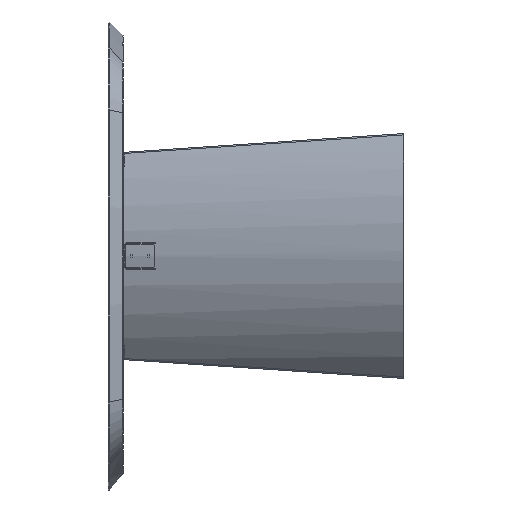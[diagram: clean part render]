
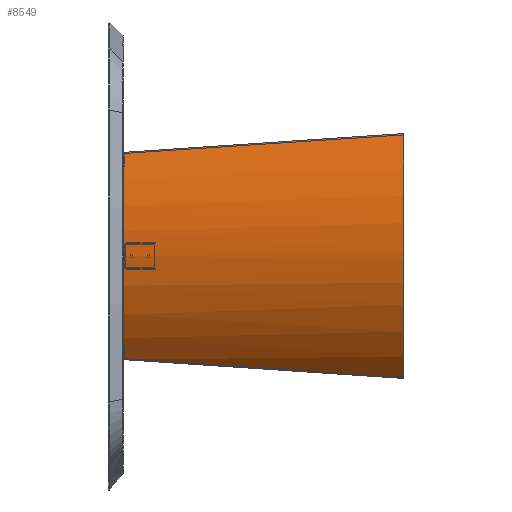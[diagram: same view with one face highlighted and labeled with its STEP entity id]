
A CAD part, left-side view. The second image highlights one B-rep face of the part: STEP entity #8549.
In plain terms, the highlighted cylindrical face has radius 455 mm (diameter 910 mm), a partial arc.
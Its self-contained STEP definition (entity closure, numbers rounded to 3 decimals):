
#78 = CARTESIAN_POINT ( 'NONE',  ( -12.104, 1.251, -0.325 ) ) ;
#206 = CARTESIAN_POINT ( 'NONE',  ( 0., 720., -186.04 ) ) ;
#257 = CARTESIAN_POINT ( 'NONE',  ( -96.167, 720., -186.04 ) ) ;
#564 = ORIENTED_EDGE ( 'NONE', *, *, #6283, .F. ) ;
#707 = VERTEX_POINT ( 'NONE', #3535 ) ;
#798 = CARTESIAN_POINT ( 'NONE',  ( 265.753, 720., -274.535 ) ) ;
#810 = CARTESIAN_POINT ( 'NONE',  ( -282.752, 482.074, -225.637 ) ) ;
#840 = EDGE_CURVE ( 'NONE', #6591, #1855, #6049, .T. ) ;
#903 = CARTESIAN_POINT ( 'NONE',  ( -265.753, 720., -274.535 ) ) ;
#1211 = CARTESIAN_POINT ( 'NONE',  ( 265.753, 720., -274.535 ) ) ;
#1283 = CYLINDRICAL_SURFACE ( 'NONE', #5102, 455. ) ;
#1468 = EDGE_CURVE ( 'NONE', #707, #4583, #2307, .T. ) ;
#1802 = ORIENTED_EDGE ( 'NONE', *, *, #1468, .F. ) ;
#1855 = VERTEX_POINT ( 'NONE', #798 ) ;
#2129 = CARTESIAN_POINT ( 'NONE',  ( 314.022, 0.906, -129.942 ) ) ;
#2233 = CARTESIAN_POINT ( 'NONE',  ( 12.104, 1.251, -0.325 ) ) ;
#2307 =( BOUNDED_CURVE ( )  B_SPLINE_CURVE ( 3, ( #10712, #4873, #810, #8237 ),
 .UNSPECIFIED., .F., .F. ) 
 B_SPLINE_CURVE_WITH_KNOTS ( ( 4, 4 ),
 ( 1.582, 1.719 ),
 .UNSPECIFIED. ) 
 CURVE ( )  GEOMETRIC_REPRESENTATION_ITEM ( )  RATIONAL_B_SPLINE_CURVE ( ( 1., 0.998, 0.998, 1. ) ) 
 REPRESENTATION_ITEM ( '' )  );
#2489 = ORIENTED_EDGE ( 'NONE', *, *, #840, .T. ) ;
#2643 = DIRECTION ( 'NONE',  ( -1., 0., 0. ) ) ;
#2980 = ORIENTED_EDGE ( 'NONE', *, *, #3343, .T. ) ;
#3133 = CARTESIAN_POINT ( 'NONE',  ( 265.753, 720., -274.535 ) ) ;
#3174 = CARTESIAN_POINT ( 'NONE',  ( 126.14, 1.243, -3.458 ) ) ;
#3260 = ORIENTED_EDGE ( 'NONE', *, *, #7971, .T. ) ;
#3343 = EDGE_CURVE ( 'NONE', #4046, #4583, #5265, .T. ) ;
#3535 = CARTESIAN_POINT ( 'NONE',  ( -314.022, 0.906, -129.942 ) ) ;
#3608 = CARTESIAN_POINT ( 'NONE',  ( -187.694, 720., -216.518 ) ) ;
#3659 = CARTESIAN_POINT ( 'NONE',  ( -265.753, 720., -274.535 ) ) ;
#3804 = CARTESIAN_POINT ( 'NONE',  ( 314.022, 0.906, -129.942 ) ) ;
#4046 = VERTEX_POINT ( 'NONE', #5667 ) ;
#4074 = CARTESIAN_POINT ( 'NONE',  ( -231.469, 1.123, -48.677 ) ) ;
#4305 = CARTESIAN_POINT ( 'NONE',  ( 0., -112.631, -440.677 ) ) ;
#4366 =( BOUNDED_CURVE ( )  B_SPLINE_CURVE ( 3, ( #2233, #3174, #8074, #2129 ),
 .UNSPECIFIED., .F., .F. ) 
 B_SPLINE_CURVE_WITH_KNOTS ( ( 4, 4 ),
 ( 0.027, 0.762 ),
 .UNSPECIFIED. ) 
 CURVE ( )  GEOMETRIC_REPRESENTATION_ITEM ( )  RATIONAL_B_SPLINE_CURVE ( ( 1., 0.955, 0.955, 1. ) ) 
 REPRESENTATION_ITEM ( '' )  );
#4525 = CIRCLE ( 'NONE', #7004, 455. ) ;
#4583 = VERTEX_POINT ( 'NONE', #903 ) ;
#4692 = FACE_OUTER_BOUND ( 'NONE', #8501, .T. ) ;
#4747 = CARTESIAN_POINT ( 'NONE',  ( 0., 690.447, -648.367 ) ) ;
#4776 = VERTEX_POINT ( 'NONE', #9738 ) ;
#4873 = CARTESIAN_POINT ( 'NONE',  ( -298.867, 241.995, -177.363 ) ) ;
#4874 = CARTESIAN_POINT ( 'NONE',  ( -12.104, 1.251, -0.325 ) ) ;
#5102 = AXIS2_PLACEMENT_3D ( 'NONE', #4747, #9746, #8710 ) ;
#5139 =( BOUNDED_CURVE ( )  B_SPLINE_CURVE ( 3, ( #1211, #8748, #8537, #6182 ),
 .UNSPECIFIED., .F., .F. ) 
 B_SPLINE_CURVE_WITH_KNOTS ( ( 4, 4 ),
 ( 5.659, 6.283 ),
 .UNSPECIFIED. ) 
 CURVE ( )  GEOMETRIC_REPRESENTATION_ITEM ( )  RATIONAL_B_SPLINE_CURVE ( ( 1., 0.968, 0.968, 1. ) ) 
 REPRESENTATION_ITEM ( '' )  );
#5175 = VERTEX_POINT ( 'NONE', #4874 ) ;
#5265 =( BOUNDED_CURVE ( )  B_SPLINE_CURVE ( 3, ( #206, #257, #3608, #3659 ),
 .UNSPECIFIED., .F., .F. ) 
 B_SPLINE_CURVE_WITH_KNOTS ( ( 4, 4 ),
 ( 0., 0.624 ),
 .UNSPECIFIED. ) 
 CURVE ( )  GEOMETRIC_REPRESENTATION_ITEM ( )  RATIONAL_B_SPLINE_CURVE ( ( 1., 0.968, 0.968, 1. ) ) 
 REPRESENTATION_ITEM ( '' )  );
#5667 = CARTESIAN_POINT ( 'NONE',  ( 0., 720., -186.04 ) ) ;
#5749 = ORIENTED_EDGE ( 'NONE', *, *, #7481, .T. ) ;
#6049 =( BOUNDED_CURVE ( )  B_SPLINE_CURVE ( 3, ( #3804, #8798, #10667, #3133 ),
 .UNSPECIFIED., .F., .F. ) 
 B_SPLINE_CURVE_WITH_KNOTS ( ( 4, 4 ),
 ( 1.582, 1.719 ),
 .UNSPECIFIED. ) 
 CURVE ( )  GEOMETRIC_REPRESENTATION_ITEM ( )  RATIONAL_B_SPLINE_CURVE ( ( 1., 0.998, 0.998, 1. ) ) 
 REPRESENTATION_ITEM ( '' )  );
#6182 = CARTESIAN_POINT ( 'NONE',  ( 0., 720., -186.04 ) ) ;
#6283 = EDGE_CURVE ( 'NONE', #4776, #5175, #4525, .T. ) ;
#6591 = VERTEX_POINT ( 'NONE', #9945 ) ;
#7004 = AXIS2_PLACEMENT_3D ( 'NONE', #4305, #7657, #2643 ) ;
#7481 = EDGE_CURVE ( 'NONE', #1855, #4046, #5139, .T. ) ;
#7657 = DIRECTION ( 'NONE',  ( 0., -0.968, 0.25 ) ) ;
#7971 = EDGE_CURVE ( 'NONE', #707, #5175, #8981, .T. ) ;
#8074 = CARTESIAN_POINT ( 'NONE',  ( 231.469, 1.123, -48.677 ) ) ;
#8237 = CARTESIAN_POINT ( 'NONE',  ( -265.753, 720., -274.535 ) ) ;
#8501 = EDGE_LOOP ( 'NONE', ( #5749, #2980, #1802, #3260, #564, #9978, #2489 ) ) ;
#8537 = CARTESIAN_POINT ( 'NONE',  ( 96.167, 720., -186.04 ) ) ;
#8549 = ADVANCED_FACE ( 'NONE', ( #4692 ), #1283, .T. ) ;
#8710 = DIRECTION ( 'NONE',  ( 0., -0.25, -0.968 ) ) ;
#8748 = CARTESIAN_POINT ( 'NONE',  ( 187.694, 720., -216.518 ) ) ;
#8798 = CARTESIAN_POINT ( 'NONE',  ( 298.867, 241.995, -177.363 ) ) ;
#8981 =( BOUNDED_CURVE ( )  B_SPLINE_CURVE ( 3, ( #10006, #4074, #10064, #78 ),
 .UNSPECIFIED., .F., .T. ) 
 B_SPLINE_CURVE_WITH_KNOTS ( ( 4, 4 ),
 ( 5.521, 6.257 ),
 .UNSPECIFIED. ) 
 CURVE ( )  GEOMETRIC_REPRESENTATION_ITEM ( )  RATIONAL_B_SPLINE_CURVE ( ( 1., 0.955, 0.955, 1. ) ) 
 REPRESENTATION_ITEM ( '' )  );
#9738 = CARTESIAN_POINT ( 'NONE',  ( 12.104, 1.251, -0.325 ) ) ;
#9746 = DIRECTION ( 'NONE',  ( 0., -0.968, 0.25 ) ) ;
#9945 = CARTESIAN_POINT ( 'NONE',  ( 314.022, 0.906, -129.942 ) ) ;
#9978 = ORIENTED_EDGE ( 'NONE', *, *, #10076, .T. ) ;
#10006 = CARTESIAN_POINT ( 'NONE',  ( -314.022, 0.906, -129.942 ) ) ;
#10064 = CARTESIAN_POINT ( 'NONE',  ( -126.14, 1.243, -3.458 ) ) ;
#10076 = EDGE_CURVE ( 'NONE', #4776, #6591, #4366, .T. ) ;
#10667 = CARTESIAN_POINT ( 'NONE',  ( 282.752, 482.074, -225.637 ) ) ;
#10712 = CARTESIAN_POINT ( 'NONE',  ( -314.022, 0.906, -129.942 ) ) ;
